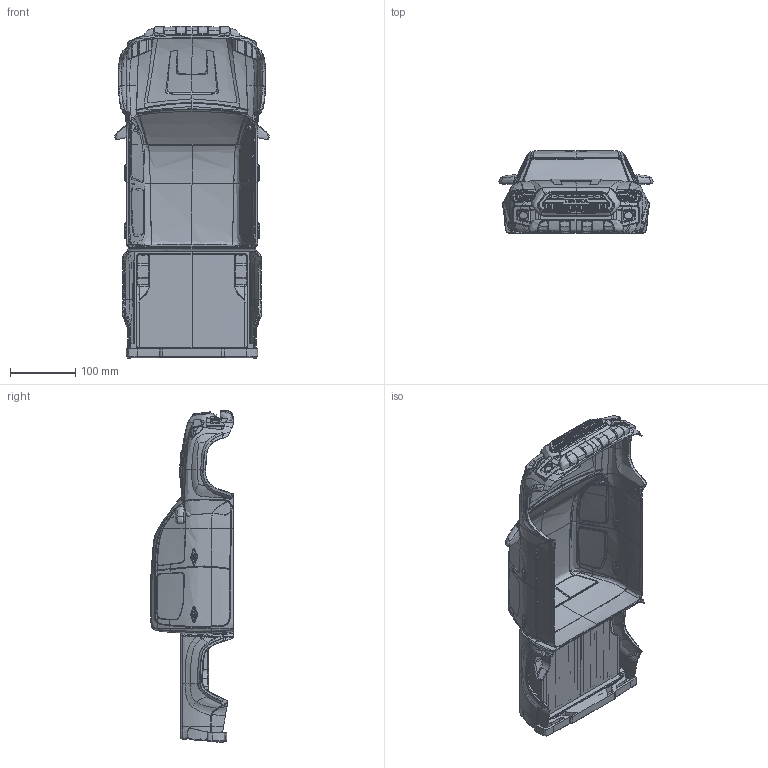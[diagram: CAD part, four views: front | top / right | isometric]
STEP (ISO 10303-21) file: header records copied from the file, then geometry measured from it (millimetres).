
FILE_DESCRIPTION(/* description */ (''),/* implementation_level */ '2;1');
FILE_NAME(/* name */ '/Users/alexmichaelbogusky/Desktop/TACO ALT STLs v18.step',/* time_stamp */ '2019-04-02T08:44:49-06:00',/* author */ ('alex@bogusky.me'),/* organization */ (''),/* preprocessor_version */ 'ST-DEVELOPER v17.2',/* originating_system */ 'Autodesk Translation Framework v7.6.0.251',/* authorisation */ '');
FILE_SCHEMA (('AUTOMOTIVE_DESIGN { 1 0 10303 214 3 1 1 }'));
Products named in the file (1): TACO ALT STLs
Bounding box: 236.4 x 126.81 x 508.63 mm (x, y, z)
Volume: 450635.9 mm3; surface area: 578303.1 mm2
Topology: 31 solids, 31 shells, 5067 faces, 13786 edges, 8780 vertices
Faces by surface type: bspline 3616, plane 1343, cylinder 108
Full cylindrical faces by diameter (mm): 1.6 x2
Entity records: 486666 total; most frequent: CARTESIAN_POINT 383227, ORIENTED_EDGE 27468, EDGE_CURVE 13734, DIRECTION 12148, VERTEX_POINT 8782, B_SPLINE_CURVE_WITH_KNOTS 6998, EDGE_LOOP 5298, FACE_OUTER_BOUND 5067
